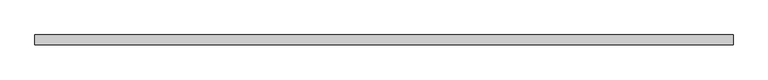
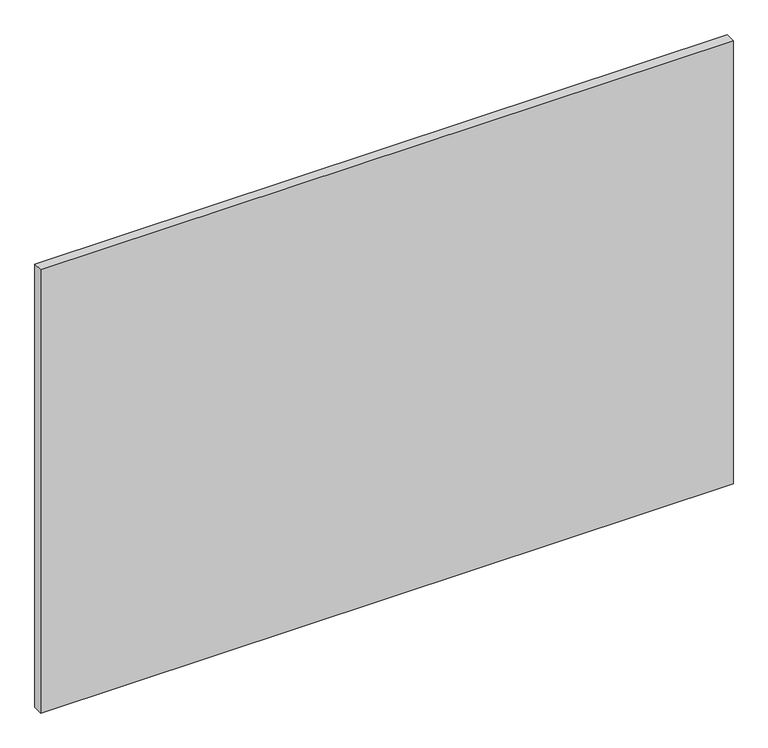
"""IFC4 building model written with IfcOpenShell, lengths in millimetres: plate geometry, 系统嵌板 : 玻璃."""

import ifcopenshell
import ifcopenshell.guid

model = None  # the IFC model being written
_history = None  # IfcOwnerHistory: only IFC2X3 demands one
_inside = {}  # id of a spatial element -> (the spatial element, [elements in it])
_under = {}  # id of a project, library or spatial element -> (it, [spatial elements below it])
_declared = {}  # id of a project -> (the project, [libraries it declares])
_typed = {}  # id of a type object -> (the type object, [elements of that type])
_made_of = {}  # id of a material, layer set ... -> (it, [elements and type objects made of it])


def new_model(schema):
    """Start an empty IFC model of exactly this schema.

    Asked for "IFC4X3", IfcOpenShell would pick the latest addendum, in which some entities
    have other attributes; the version numbers below select the first issue.
    IFC2X3 requires an IfcOwnerHistory on every rooted entity: one is made here for all.
    """
    global model, _history
    if schema == "IFC4X3":
        model = ifcopenshell.file(schema_version=(4, 3, 0, 0))
    else:
        model = ifcopenshell.file(schema=schema)
    _inside.clear()
    _under.clear()
    _declared.clear()
    _typed.clear()
    _made_of.clear()
    _history = None
    if model.schema == "IFC2X3":
        org = make("IfcOrganization", Name="unknown")
        user = make(
            "IfcPersonAndOrganization",
            ThePerson=make("IfcPerson", FamilyName="unknown"),
            TheOrganization=org,
        )
        app = make(
            "IfcApplication",
            ApplicationDeveloper=org,
            Version="unknown",
            ApplicationFullName="unknown",
            ApplicationIdentifier="unknown",
        )
        _history = make(
            "IfcOwnerHistory",
            OwningUser=user,
            OwningApplication=app,
            ChangeAction="ADDED",
            CreationDate=0,
        )
    return model


def make(cls, **values):
    """One entity of the class cls with the attributes given. An attribute that is None is left unset."""
    return model.create_entity(
        cls, **{name: value for name, value in values.items() if value is not None}
    )


def rooted(cls, **values):
    """An entity with a GlobalId (a new one), such as an element, a storey or a relation."""
    return make(cls, GlobalId=ifcopenshell.guid.new(), OwnerHistory=_history, **values)


def si_unit(unit_type, name, prefix=None):
    """IfcSIUnit, for example si_unit("LENGTHUNIT", "METRE", prefix="MILLI")."""
    return make("IfcSIUnit", UnitType=unit_type, Prefix=prefix, Name=name)


def assignment(units):
    """IfcUnitAssignment: the units of a project."""
    return None if units is None else make("IfcUnitAssignment", Units=units)


def point(xyz):
    """IfcCartesianPoint."""
    return None if xyz is None else make("IfcCartesianPoint", Coordinates=xyz)


def direction(xyz):
    """IfcDirection."""
    return None if xyz is None else make("IfcDirection", DirectionRatios=xyz)


def frame(location, z_axis=None, x_axis=None):
    """IfcAxis2Placement3D, a coordinate frame: its origin and axes. An axis left out is left unset."""
    return make(
        "IfcAxis2Placement3D",
        Location=point(location),
        Axis=direction(z_axis),
        RefDirection=direction(x_axis),
    )


def origin():
    """The frame at (0, 0, 0) with its axes left unset."""
    return frame((0.0, 0.0, 0.0))


def origin_with_axes():
    """The frame at (0, 0, 0) with the z axis (0, 0, 1) and the x axis (1, 0, 0) written out."""
    return frame((0.0, 0.0, 0.0), z_axis=(0.0, 0.0, 1.0), x_axis=(1.0, 0.0, 0.0))


def place(relative_to, where):
    """IfcLocalPlacement: puts the frame where relative to a parent placement (None: the world)."""
    return make(
        "IfcLocalPlacement", PlacementRelTo=relative_to, RelativePlacement=where
    )


def context(
    kind, dimensions, precision=None, world=None, true_north=None, identifier=None
):
    """IfcGeometricRepresentationContext, for example the 3D "Model" context."""
    return make(
        "IfcGeometricRepresentationContext",
        ContextIdentifier=identifier,
        ContextType=kind,
        CoordinateSpaceDimension=dimensions,
        Precision=precision,
        WorldCoordinateSystem=world,
        TrueNorth=true_north,
    )


def project(units=None, contexts=None):
    """IfcProject with its units and contexts."""
    return rooted(
        "IfcProject",
        Name="project",
        RepresentationContexts=contexts,
        UnitsInContext=assignment(units),
    )


def spatial(cls, under=None, at=None, **own):
    """A site, building, storey or space (cls), placed at a placement, below another one or the project."""
    s = rooted(cls, ObjectPlacement=at, **own)
    if under is not None:
        _under.setdefault(under.id(), (under, []))[1].append(s)
    return s


def polyline(points):
    """IfcPolyline through the points."""
    return make("IfcPolyline", Points=[point(p) for p in points])


def outline(outer, holes=None, kind="AREA"):
    """IfcArbitraryClosedProfileDef: a profile drawn as a closed curve; with holes, ...WithVoids."""
    if holes is None:
        return make("IfcArbitraryClosedProfileDef", ProfileType=kind, OuterCurve=outer)
    return make(
        "IfcArbitraryProfileDefWithVoids",
        ProfileType=kind,
        OuterCurve=outer,
        InnerCurves=holes,
    )


def extrude(swept, where, along, depth):
    """IfcExtrudedAreaSolid: the profile swept, set in the frame where, extruded along a direction by depth."""
    return make(
        "IfcExtrudedAreaSolid",
        SweptArea=swept,
        Position=where,
        ExtrudedDirection=direction(along),
        Depth=depth,
    )


def shape(context_of_items, identifier, shape_type, items):
    """IfcShapeRepresentation: the items that make up one representation, for example the "Body"."""
    return make(
        "IfcShapeRepresentation",
        ContextOfItems=context_of_items,
        RepresentationIdentifier=identifier,
        RepresentationType=shape_type,
        Items=items,
    )


def source(mapping_origin, context_of_items, identifier, shape_type, items):
    """IfcRepresentationMap: a shape defined once, which mapped items show again and again."""
    return make(
        "IfcRepresentationMap",
        MappingOrigin=mapping_origin,
        MappedRepresentation=shape(context_of_items, identifier, shape_type, items),
    )


def transform(
    local_origin,
    x_axis=None,
    y_axis=None,
    z_axis=None,
    scale=None,
    scale2=None,
    scale3=None,
    uniform=True,
):
    """IfcCartesianTransformationOperator3D, or its non-uniform kind. x_axis, y_axis, z_axis: its Axis1, 2, 3."""
    if uniform:
        return make(
            "IfcCartesianTransformationOperator3D",
            Axis1=direction(x_axis),
            Axis2=direction(y_axis),
            LocalOrigin=point(local_origin),
            Scale=scale,
            Axis3=direction(z_axis),
        )
    return make(
        "IfcCartesianTransformationOperator3DnonUniform",
        Axis1=direction(x_axis),
        Axis2=direction(y_axis),
        LocalOrigin=point(local_origin),
        Scale=scale,
        Axis3=direction(z_axis),
        Scale2=scale2,
        Scale3=scale3,
    )


def mapped(mapping_source, mapping_target):
    """IfcMappedItem: shows the shape of a source again, moved by a transform."""
    return make(
        "IfcMappedItem", MappingSource=mapping_source, MappingTarget=mapping_target
    )


def made_of(thing, what):
    """Note that an element or type object is made of a material, layer set ...; save() writes the relation."""
    if what is not None:
        _made_of.setdefault(what.id(), (what, []))[1].append(thing)
    return thing


def element(
    cls,
    number,
    at=None,
    inside=None,
    cuts=None,
    type_object=None,
    material=None,
    context=None,
    identifier="Body",
    shape_type=None,
    held_by="IfcProductDefinitionShape",
    body=None,
    shapes=None,
    **own,
):
    """One element of the class cls, such as IfcWall. Its Tag is "e" and its number.

    at: its placement. inside: the storey or other place that contains it. cuts: it is an
    opening in that element (IfcRelVoidsElement). A single representation is given by context,
    identifier, shape_type and body (its items); several are given by shapes. held_by: the class
    of the entity that holds the representations. save() writes the other relations.
    """
    e = rooted(cls, Tag="e%d" % number, ObjectPlacement=at, **own)
    if body is not None:
        shapes = [shape(context, identifier, shape_type, body)]
    if shapes is not None:
        e.Representation = make(held_by, Representations=shapes)
    if inside is not None:
        _inside.setdefault(inside.id(), (inside, []))[1].append(e)
    if cuts is not None:
        rooted(
            "IfcRelVoidsElement", RelatingBuildingElement=cuts, RelatedOpeningElement=e
        )
    if type_object is not None:
        _typed.setdefault(type_object.id(), (type_object, []))[1].append(e)
    return made_of(e, material)


def aggregate(whole, parts):
    """IfcRelAggregates: a whole, such as a stair, and the parts it consists of."""
    return rooted("IfcRelAggregates", RelatingObject=whole, RelatedObjects=parts)


def save(model, path):
    """Write the relations noted so far, then the file.

    IfcRelAggregates (storeys below a building ...), IfcRelContainedInSpatialStructure (elements
    in a storey), IfcRelDefinesByType, IfcRelAssociatesMaterial and IfcRelDeclares: one each for
    every whole, place, type object, material and project.
    """
    for whole, parts in _under.values():
        aggregate(whole, parts)
    for where, things in _inside.values():
        rooted(
            "IfcRelContainedInSpatialStructure",
            RelatedElements=things,
            RelatingStructure=where,
        )
    for kind, things in _typed.values():
        rooted("IfcRelDefinesByType", RelatedObjects=things, RelatingType=kind)
    for what, things in _made_of.values():
        rooted("IfcRelAssociatesMaterial", RelatedObjects=things, RelatingMaterial=what)
    for by, libraries in _declared.values():
        rooted("IfcRelDeclares", RelatingContext=by, RelatedDefinitions=libraries)
    model.write(path)


def plate_c850eb1c(model_context):
    return source(origin(), model_context, "Body", "SweptSolid", [
        extrude(outline(polyline([(887.5, -12.5), (-887.5, -12.5), (-887.5, 12.5), (887.5, 12.5), (887.5, -12.5)])), origin_with_axes(), (0.0, 0.0, 1.0), 1201.0),
    ])


if __name__ == "__main__":
    model = new_model("IFC4")
    model_context = context("Model", 3, world=origin())
    ifc_project = project(units=[si_unit("LENGTHUNIT", "METRE", prefix="MILLI")], contexts=[model_context])
    site = spatial("IfcSite", under=ifc_project)
    building = spatial("IfcBuilding", under=site)
    placement = place(None, origin())
    plate_shape = plate_c850eb1c(model_context)
    element("IfcPlate", 1, ObjectType="系统嵌板 : 玻璃", at=placement, inside=building, context=model_context, shape_type="MappedRepresentation", body=[
        mapped(plate_shape, transform((0.0, 0.0, 0.0), x_axis=(1.0, 0.0, 0.0), y_axis=(0.0, 1.0, 0.0), z_axis=(0.0, 0.0, 1.0))),
    ])
    save(model, "model.ifc")
